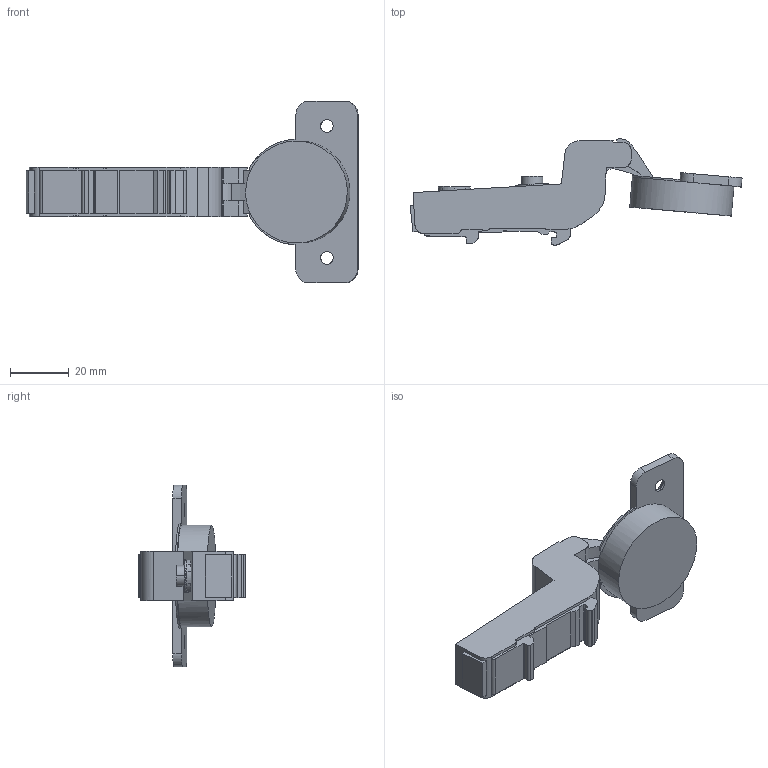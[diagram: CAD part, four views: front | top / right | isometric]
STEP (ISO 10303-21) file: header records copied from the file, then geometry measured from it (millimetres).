
FILE_DESCRIPTION (( 'STEP AP203' ), '1' );
FILE_NAME ('C85C6A5F-DTC3D open.STEP', '2021-04-10T03:22:14', ( '' ), ( '' ), 'SwSTEP 2.0', 'SolidWorks 2018', '' );
FILE_SCHEMA (( 'CONFIG_CONTROL_DESIGN' ));
Length unit declared in the file: millimetre
Products named in the file (1): C85C6A5F-DTC3D open
Bounding box: 113.27 x 36.22 x 62 mm (x, y, z)
Surface area: 11610.2 mm2 (no closed solid volume)
Topology: 0 solids, 2 shells, 170 faces, 486 edges, 324 vertices
Faces by surface type: plane 75, cylinder 74, torus 12, bspline 5, cone 4
Entity records: 7305 total; most frequent: CARTESIAN_POINT 3719, ORIENTED_EDGE 968, EDGE_CURVE 486, B_SPLINE_CURVE_WITH_KNOTS 466, DIRECTION 359, VERTEX_POINT 324, EDGE_LOOP 180, AXIS2_PLACEMENT_3D 175
